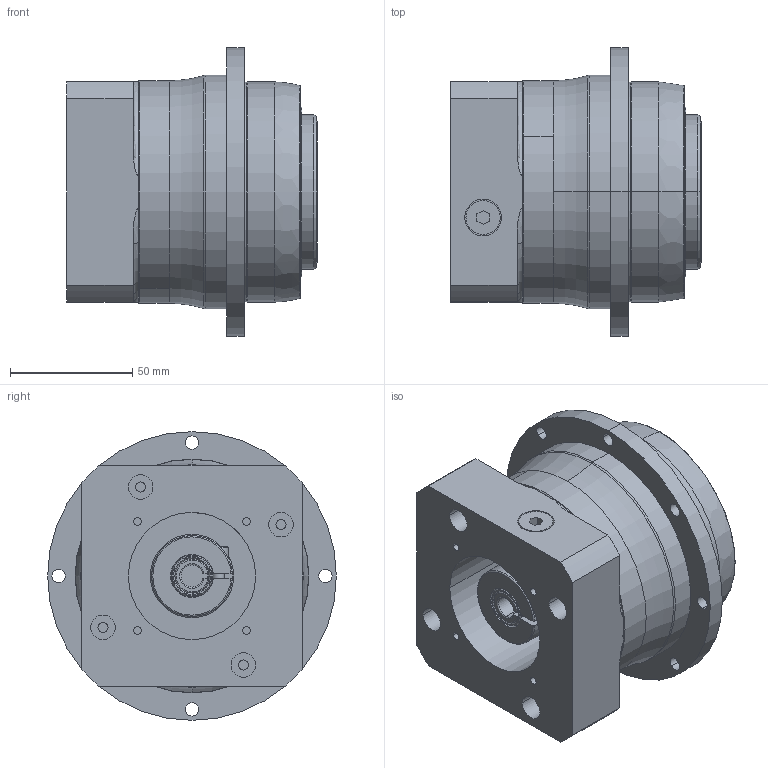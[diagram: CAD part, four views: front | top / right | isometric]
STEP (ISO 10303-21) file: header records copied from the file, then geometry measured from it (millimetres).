
FILE_DESCRIPTION(('STEP AP214'),'1');
FILE_NAME('20170315_110620205.stp','2017-03-15T10:06:21',(''),(''),'XStep 1.0','it-motive AG (itm_Acis_A0018_00R.dll)',' ');
FILE_SCHEMA(('automotive_design'));
Length unit declared in the file: millimetre
Products named in the file (7): Abtrieb_TP_m060; Antrieb_MF1_m060_C; 1; Abtriebsflansch_TP_m060_0; ADP; vs_1_point; DSH
Bounding box: 102.55 x 118 x 118 mm (x, y, z)
Volume: 646391.2 mm3; surface area: 112907.8 mm2
Topology: 7 solids, 7 shells, 297 faces, 706 edges, 438 vertices
Faces by surface type: cylinder 125, plane 74, torus 54, cone 44
Entity records: 12188 total; most frequent: CARTESIAN_POINT 2521, DIRECTION 1659, ORIENTED_EDGE 1376, AXIS2_PLACEMENT_3D 706, EDGE_CURVE 688, VERTEX_POINT 438, CIRCLE 402, EDGE_LOOP 364
